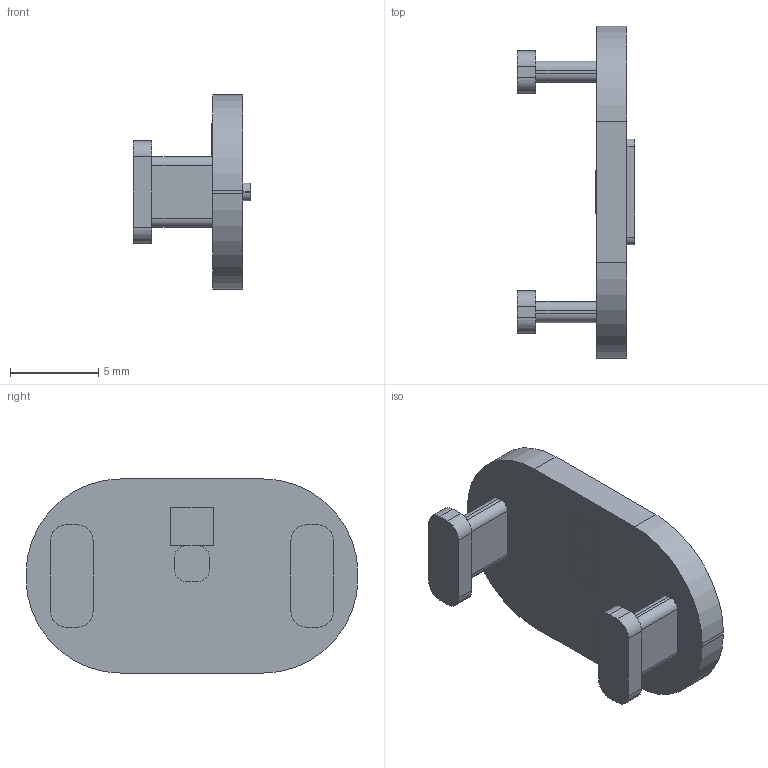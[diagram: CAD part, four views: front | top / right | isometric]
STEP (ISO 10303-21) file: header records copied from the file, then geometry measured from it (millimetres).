
FILE_DESCRIPTION(/* description */ (''),/* implementation_level */ '2;1');
FILE_NAME(/* name */ 'P07.step',/* time_stamp */ '2026-09-14T14:30:37-07:00',/* author */ (''),/* organization */ (''),/* preprocessor_version */ 'ST-DEVELOPER v20.1',/* originating_system */ 'Autodesk Translation Framework v15.8.0.0',/* authorisation */ '');
FILE_SCHEMA (('AUTOMOTIVE_DESIGN { 1 0 10303 214 3 1 1 }'));
Length unit declared in the file: millimetre
Products named in the file (1): 2026-09-14-14-30-37-330
Bounding box: 6.65 x 18.8 x 11 mm (x, y, z)
Volume: 371.3 mm3; surface area: 587.1 mm2
Topology: 1 solids, 1 shells, 68 faces, 180 edges, 120 vertices
Faces by surface type: plane 40, cylinder 28
Entity records: 2153 total; most frequent: DIRECTION 374, CARTESIAN_POINT 369, ORIENTED_EDGE 360, EDGE_CURVE 180, AXIS2_PLACEMENT_3D 125, LINE 124, VECTOR 124, VERTEX_POINT 120
